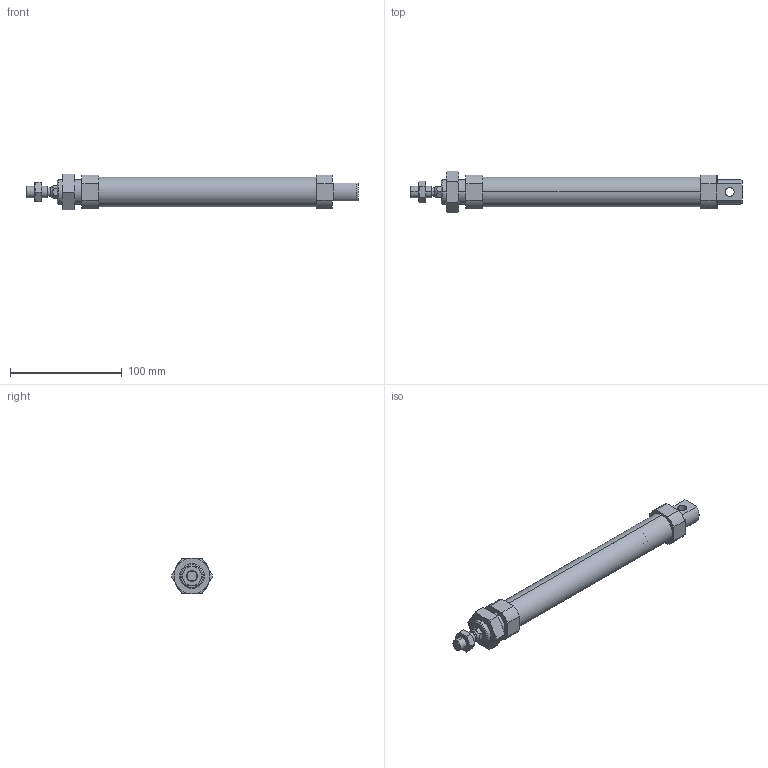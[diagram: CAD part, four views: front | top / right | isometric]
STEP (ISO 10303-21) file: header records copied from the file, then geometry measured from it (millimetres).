
FILE_DESCRIPTION (( 'STEP AP203' ), '1' );
FILE_NAME ('CSMK25-160.STEP', '2020-04-02T10:52:12', ( '' ), ( '' ), 'SwSTEP 2.0', 'SolidWorks 2019', '' );
FILE_SCHEMA (( 'CONFIG_CONTROL_DESIGN' ));
Length unit declared in the file: millimetre
Products named in the file (1): CSMK25-160
Bounding box: 297 x 36.95 x 32 mm (x, y, z)
Volume: 91301.4 mm3; surface area: 53158.8 mm2
Topology: 4 solids, 4 shells, 135 faces, 310 edges, 188 vertices
Faces by surface type: plane 53, cone 50, cylinder 32
Entity records: 4281 total; most frequent: CARTESIAN_POINT 1196, DIRECTION 632, ORIENTED_EDGE 612, EDGE_CURVE 306, AXIS2_PLACEMENT_3D 248, VERTEX_POINT 188, EDGE_LOOP 150, VECTOR 136
